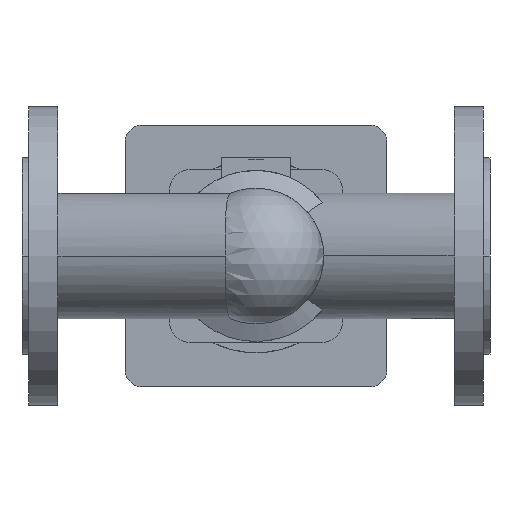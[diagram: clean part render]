
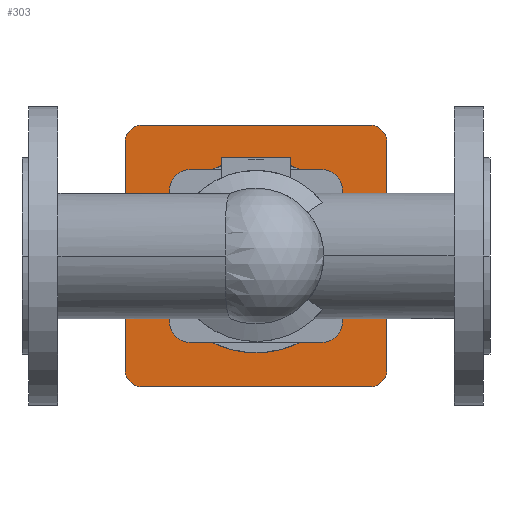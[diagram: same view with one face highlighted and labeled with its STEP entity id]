
A CAD part, front view. The second image highlights one B-rep face of the part: STEP entity #303.
In plain terms, the highlighted planar face has unit normal (0, -1, 0).
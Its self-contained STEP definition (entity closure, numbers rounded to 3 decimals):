
#303 = ADVANCED_FACE( '', ( #729, #730 ), #731, .F. );
#729 = FACE_OUTER_BOUND( '', #1181, .T. );
#730 = FACE_BOUND( '', #1182, .T. );
#731 = PLANE( '', #1183 );
#1181 = EDGE_LOOP( '', ( #2652, #2653, #2654, #2655, #2656, #2657, #2658, #2659 ) );
#1182 = EDGE_LOOP( '', ( #2660, #2661 ) );
#1183 = AXIS2_PLACEMENT_3D( '', #2662, #2663, #2664 );
#2652 = ORIENTED_EDGE( '', *, *, #3283, .F. );
#2653 = ORIENTED_EDGE( '', *, *, #3284, .F. );
#2654 = ORIENTED_EDGE( '', *, *, #3285, .F. );
#2655 = ORIENTED_EDGE( '', *, *, #3286, .F. );
#2656 = ORIENTED_EDGE( '', *, *, #3287, .F. );
#2657 = ORIENTED_EDGE( '', *, *, #3288, .F. );
#2658 = ORIENTED_EDGE( '', *, *, #3289, .F. );
#2659 = ORIENTED_EDGE( '', *, *, #3290, .F. );
#2660 = ORIENTED_EDGE( '', *, *, #3198, .F. );
#2661 = ORIENTED_EDGE( '', *, *, #3291, .F. );
#2662 = CARTESIAN_POINT( '', ( 145., 667.5, 0. ) );
#2663 = DIRECTION( '', ( 0., 1., 0. ) );
#2664 = DIRECTION( '', ( 0., 0., 1. ) );
#3198 = EDGE_CURVE( '', #3943, #3946, #3947, .T. );
#3283 = EDGE_CURVE( '', #4090, #4091, #4092, .T. );
#3284 = EDGE_CURVE( '', #4093, #4090, #4094, .T. );
#3285 = EDGE_CURVE( '', #4095, #4093, #4096, .T. );
#3286 = EDGE_CURVE( '', #4097, #4095, #4098, .T. );
#3287 = EDGE_CURVE( '', #4099, #4097, #4100, .T. );
#3288 = EDGE_CURVE( '', #4101, #4099, #4102, .T. );
#3289 = EDGE_CURVE( '', #4103, #4101, #4104, .T. );
#3290 = EDGE_CURVE( '', #4091, #4103, #4105, .T. );
#3291 = EDGE_CURVE( '', #3946, #3943, #4106, .T. );
#3943 = VERTEX_POINT( '', #5492 );
#3946 = VERTEX_POINT( '', #5496 );
#3947 = CIRCLE( '', #5497, 40. );
#4090 = VERTEX_POINT( '', #5695 );
#4091 = VERTEX_POINT( '', #5696 );
#4092 = CIRCLE( '', #5697, 10. );
#4093 = VERTEX_POINT( '', #5698 );
#4094 = LINE( '', #5699, #5700 );
#4095 = VERTEX_POINT( '', #5701 );
#4096 = CIRCLE( '', #5702, 10. );
#4097 = VERTEX_POINT( '', #5703 );
#4098 = LINE( '', #5704, #5705 );
#4099 = VERTEX_POINT( '', #5706 );
#4100 = CIRCLE( '', #5707, 10. );
#4101 = VERTEX_POINT( '', #5708 );
#4102 = LINE( '', #5709, #5710 );
#4103 = VERTEX_POINT( '', #5711 );
#4104 = CIRCLE( '', #5712, 10. );
#4105 = LINE( '', #5713, #5714 );
#4106 = CIRCLE( '', #5715, 40. );
#5492 = CARTESIAN_POINT( '', ( 105., 667.5, 0. ) );
#5496 = CARTESIAN_POINT( '', ( 185., 667.5, 0. ) );
#5497 = AXIS2_PLACEMENT_3D( '', #6452, #6453, #6454 );
#5695 = CARTESIAN_POINT( '', ( 64., 667.5, 71. ) );
#5696 = CARTESIAN_POINT( '', ( 74., 667.5, 81. ) );
#5697 = AXIS2_PLACEMENT_3D( '', #6597, #6598, #6599 );
#5698 = CARTESIAN_POINT( '', ( 64., 667.5, -71. ) );
#5699 = CARTESIAN_POINT( '', ( 64., 667.5, -71. ) );
#5700 = VECTOR( '', #6600, 1. );
#5701 = CARTESIAN_POINT( '', ( 74., 667.5, -81. ) );
#5702 = AXIS2_PLACEMENT_3D( '', #6601, #6602, #6603 );
#5703 = CARTESIAN_POINT( '', ( 216., 667.5, -81. ) );
#5704 = CARTESIAN_POINT( '', ( 216., 667.5, -81. ) );
#5705 = VECTOR( '', #6604, 1. );
#5706 = CARTESIAN_POINT( '', ( 226., 667.5, -71. ) );
#5707 = AXIS2_PLACEMENT_3D( '', #6605, #6606, #6607 );
#5708 = CARTESIAN_POINT( '', ( 226., 667.5, 71. ) );
#5709 = CARTESIAN_POINT( '', ( 226., 667.5, 71. ) );
#5710 = VECTOR( '', #6608, 1. );
#5711 = CARTESIAN_POINT( '', ( 216., 667.5, 81. ) );
#5712 = AXIS2_PLACEMENT_3D( '', #6609, #6610, #6611 );
#5713 = CARTESIAN_POINT( '', ( 74., 667.5, 81. ) );
#5714 = VECTOR( '', #6612, 1. );
#5715 = AXIS2_PLACEMENT_3D( '', #6613, #6614, #6615 );
#6452 = CARTESIAN_POINT( '', ( 145., 667.5, 0. ) );
#6453 = DIRECTION( '', ( 0., -1., 0. ) );
#6454 = DIRECTION( '', ( -1., 0., 0. ) );
#6597 = CARTESIAN_POINT( '', ( 74., 667.5, 71. ) );
#6598 = DIRECTION( '', ( 0., 1., 0. ) );
#6599 = DIRECTION( '', ( -1., 0., 0. ) );
#6600 = DIRECTION( '', ( 0., 0., 1. ) );
#6601 = CARTESIAN_POINT( '', ( 74., 667.5, -71. ) );
#6602 = DIRECTION( '', ( 0., 1., 0. ) );
#6603 = DIRECTION( '', ( 0., 0., -1. ) );
#6604 = DIRECTION( '', ( -1., 0., 0. ) );
#6605 = CARTESIAN_POINT( '', ( 216., 667.5, -71. ) );
#6606 = DIRECTION( '', ( 0., 1., 0. ) );
#6607 = DIRECTION( '', ( 1., 0., 0. ) );
#6608 = DIRECTION( '', ( 0., 0., -1. ) );
#6609 = CARTESIAN_POINT( '', ( 216., 667.5, 71. ) );
#6610 = DIRECTION( '', ( 0., 1., 0. ) );
#6611 = DIRECTION( '', ( 0., 0., 1. ) );
#6612 = DIRECTION( '', ( 1., 0., 0. ) );
#6613 = CARTESIAN_POINT( '', ( 145., 667.5, 0. ) );
#6614 = DIRECTION( '', ( 0., -1., 0. ) );
#6615 = DIRECTION( '', ( -1., 0., 0. ) );
